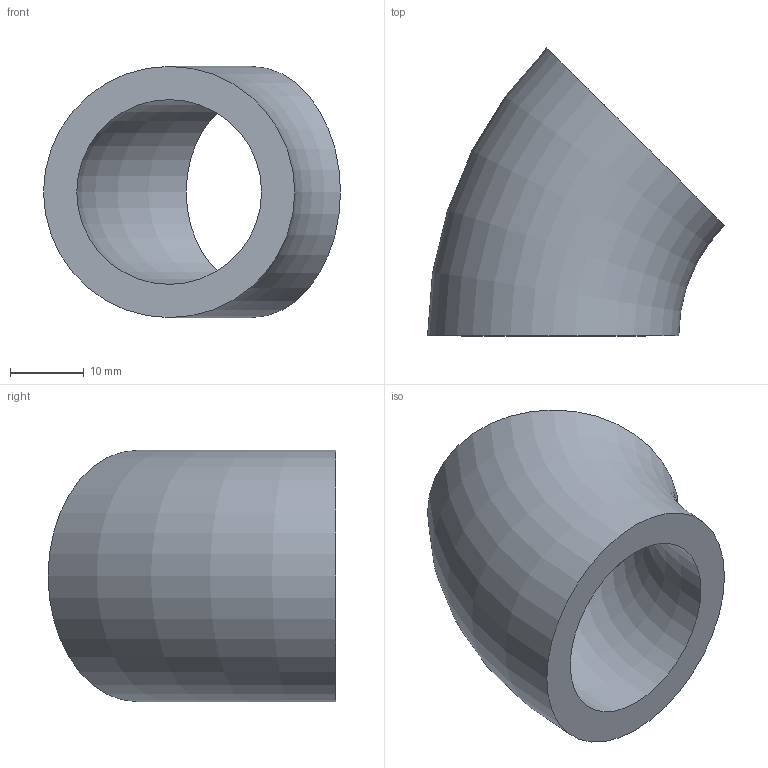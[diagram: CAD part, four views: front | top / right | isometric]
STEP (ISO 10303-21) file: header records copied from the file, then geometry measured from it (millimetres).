
FILE_DESCRIPTION(/* description */ (''),/* implementation_level */ '2;1');
FILE_NAME(/* name */ 'C:\Users\D\Documents\Inventor\HP\JIS\配管\エルボ ロング 45°\Sch80\Elbow45-long-25A-Sch80.stp',/* time_stamp */ '2022-06-08T17:03:44+09:00',/* author */ ('D'),/* organization */ (''),/* preprocessor_version */ 'ST-DEVELOPER v18',/* originating_system */ 'Autodesk Inventor 2020',/* authorisation */ '');
FILE_SCHEMA (('AUTOMOTIVE_DESIGN { 1 0 10303 214 3 1 1 }'));
Length unit declared in the file: millimetre
Products named in the file (1): Elbow-long-90-15A-SGP
Bounding box: 40.18 x 38.96 x 34 mm (x, y, z)
Volume: 12479.6 mm3; surface area: 6380.6 mm2
Topology: 1 solids, 1 shells, 4 faces, 10 edges, 8 vertices
Faces by surface type: torus 2, plane 2
Entity records: 181 total; most frequent: DIRECTION 30, CARTESIAN_POINT 23, ORIENTED_EDGE 20, AXIS2_PLACEMENT_3D 15, CIRCLE 10, EDGE_CURVE 10, VERTEX_POINT 8, EDGE_LOOP 6
